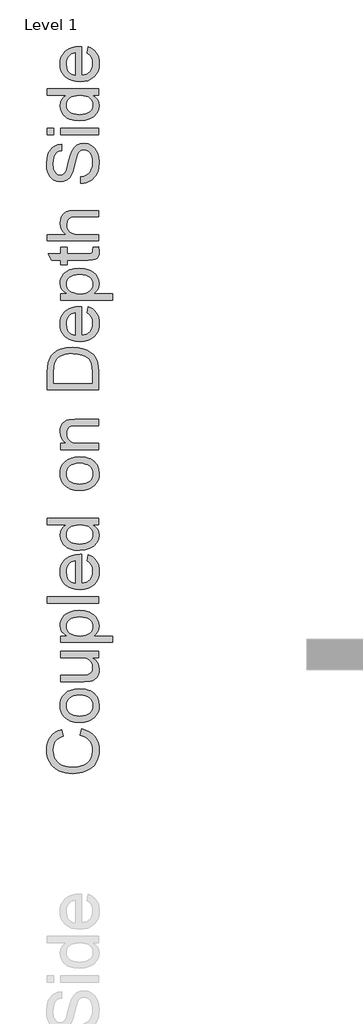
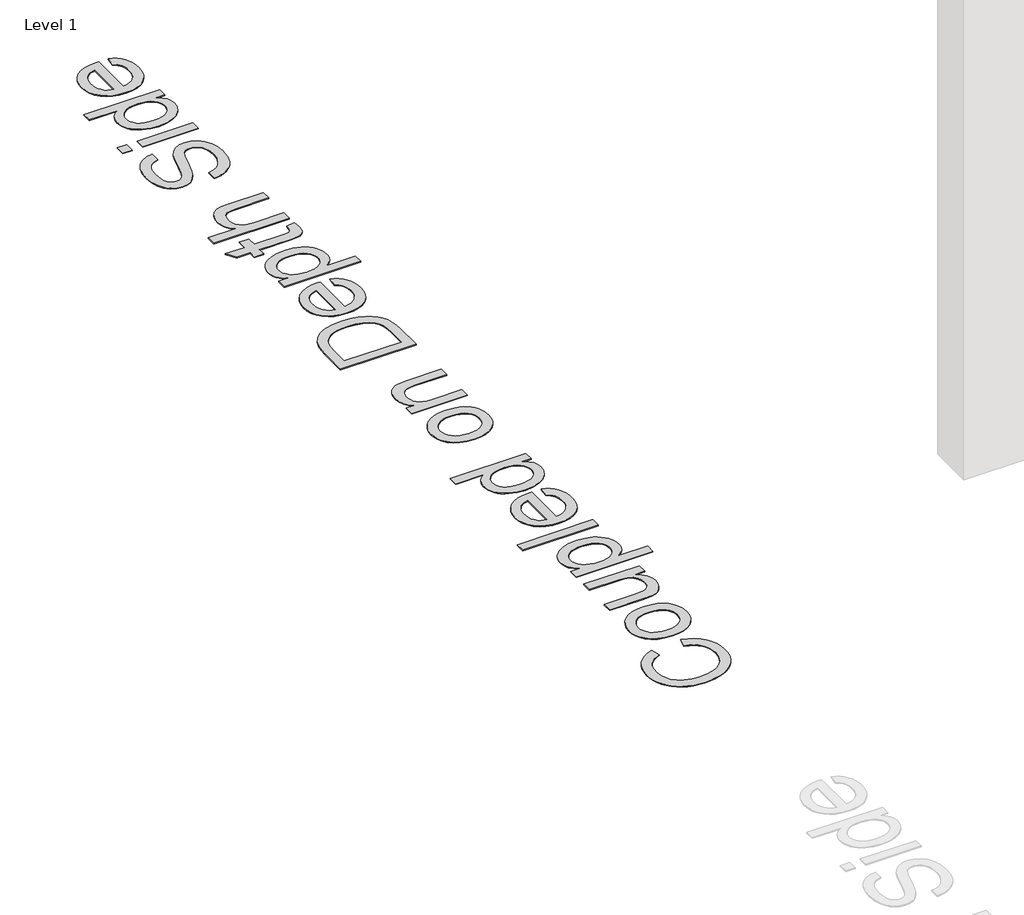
# One storey, part 49 of 80: 1 proxy.
"""IFC4 building model written with IfcOpenShell, lengths in millimetres."""

from ifc_helpers import new_model, si_unit, origin, origin_with_axes, place, context, project, spatial, polyline, outline, extrude, element, save

model = new_model("IFC4")

# Units and contexts
model_context = context("Model", 3, world=origin())
ifc_project = project(units=[si_unit("LENGTHUNIT", "METRE", prefix="MILLI")], contexts=[model_context])

# Site, building, storey
site = spatial("IfcSite", under=ifc_project)
building = spatial("IfcBuilding", under=site)
storey = spatial("IfcBuildingStorey", under=building, Name="Level 1", Elevation=0.0)

# Proxy
placement = place(None, origin())
element("IfcBuildingElementProxy", 1, Name="500mm Arial", ObjectType="500mm Arial", at=placement, inside=storey, context=model_context, shape_type="SweptSolid", body=[
    extrude(outline(polyline([(125834.4472638, 52366.9601072), (125850.6340716, 52429.7453011), (125889.6793805, 52417.3216195), (125923.7966034, 52400.7745939), (125952.9857405, 52380.1042243), (125977.2467916, 52355.3105107), (125996.3191738, 52326.9529402), (126009.942304, 52295.5910002), (126018.116182, 52261.2246904), (126020.8408081, 52223.8540111), (126018.779136, 52185.5674589), (126012.59412, 52151.0287045), (126002.2857599, 52120.2377479), (125987.8540558, 52093.1945891), (125969.5136055, 52069.5275141), (125947.4790069, 52048.8648087), (125921.7502598, 52031.206473), (125892.3273644, 52016.5525068), (125860.4825792, 52005.0446982), (125827.4881628, 51996.8248348), (125793.3441151, 51991.8929168), (125758.0504362, 51990.2489442), (125720.1815833, 51992.1075147), (125684.8112623, 51997.6832261), (125651.9394732, 52006.9760786), (125621.566216, 52019.9860721), (125594.1934963, 52036.4219667), (125570.3233197, 52055.9925224), (125549.9556863, 52078.6977393), (125533.0905961, 52104.5376173), (125519.8660048, 52132.6346047), (125510.4198682, 52162.1111496), (125504.7521862, 52192.9672519), (125502.8629589, 52225.2029117), (125505.3078413, 52261.1135594), (125512.6424886, 52294.0428301), (125524.8669007, 52323.9907238), (125541.9810777, 52350.9572404), (125563.5328312, 52374.497856), (125589.0699731, 52394.1680465), (125618.5925032, 52409.9678117), (125652.1004216, 52421.8971518), (125667.060956, 52359.111958), (125642.3707092, 52349.2251294), (125621.2749761, 52337.3456066), (125603.7737566, 52323.4733897), (125589.8670507, 52307.6084787), (125579.2712828, 52289.658903), (125571.7028772, 52269.5326922), (125567.1618338, 52247.2298462), (125565.6481527, 52222.7503651), (125567.3266143, 52194.5843999), (125572.3619991, 52168.824996), (125580.7543071, 52145.4721535), (125592.5035383, 52124.5258724), (125607.0808624, 52106.2505679), (125623.9574489, 52090.9106551), (125643.1332979, 52078.5061341), (125664.6084094, 52069.0370048), (125710.563002, 52057.0348547), (125757.9278088, 52053.034138), (125815.9305368, 52057.7706187), (125866.0851154, 52071.9800608), (125887.7403358, 52082.771266), (125906.4754928, 52096.1989588), (125922.2905865, 52112.2631392), (125935.1856169, 52130.9638073), (125952.3381149, 52172.6417717), (125958.0556142, 52217.6000172), (125956.1089053, 52244.8960948), (125950.2687787, 52270.0078731), (125940.5352342, 52292.935352), (125926.908272, 52313.6785316), (125909.4492056, 52331.7469025), (125888.2193488, 52346.6499554), (125863.2187015, 52358.3876903), (125834.4472638, 52366.9601072)])), origin_with_axes(), (0.0, 0.0, 1.0), 5.0),
    extrude(outline(polyline([(125828.5611519, 52492.5304949), (125780.790142, 52495.9257392), (125739.6256796, 52506.1114719), (125705.0677647, 52523.0876931), (125677.1163972, 52546.8544029), (125659.2511278, 52570.782061), (125646.4902211, 52597.1929225), (125638.8336771, 52626.0869876), (125636.2814958, 52657.4642561), (125639.3893322, 52692.1026452), (125648.7128415, 52723.4224321), (125664.2520237, 52751.4236169), (125686.0068788, 52776.1061995), (125713.2416427, 52796.2515709), (125745.2205516, 52810.6411218), (125781.9436053, 52819.2748524), (125823.410804, 52822.1527626), (125886.8397913, 52817.0637283), (125912.8751067, 52810.7024355), (125935.1243032, 52801.7966255), (125954.3423053, 52790.4574294), (125971.2840376, 52776.7959783), (125985.9495001, 52760.812272), (125998.3386927, 52742.5063106), (126015.2152792, 52701.7787081), (126020.8408081, 52657.4642561), (126017.7444679, 52622.3200292), (126008.4554476, 52590.7090024), (125992.9737469, 52562.6311755), (125971.299366, 52538.0865486), (125943.8001869, 52518.1557751), (125910.8440915, 52503.9195083), (125872.4310798, 52495.3777483), (125828.5611519, 52492.5304949)]), holes=[polyline([(125828.4385246, 52555.3156888), (125858.892256, 52557.1321061), (125885.2609644, 52562.5813582), (125907.5446499, 52571.6634449), (125925.7433123, 52584.3783664), (125939.8799444, 52599.8447386), (125949.9775387, 52617.1811776), (125956.0360954, 52636.3876834), (125958.0556142, 52657.4642561), (125956.024599, 52678.4335298), (125949.9315535, 52697.5633936), (125939.7764776, 52714.8538473), (125925.5593713, 52730.3048911), (125907.1806, 52743.0198126), (125884.5405289, 52752.1018993), (125857.639158, 52757.5511514), (125826.4764873, 52759.3675687), (125796.9884461, 52757.5396551), (125771.3095164, 52752.0559141), (125749.4396982, 52742.9163458), (125731.3789915, 52730.1209501), (125717.2423594, 52714.6124248), (125707.1447651, 52697.3334673), (125701.0862085, 52678.2840777), (125699.0666896, 52657.4642561), (125701.0785443, 52636.3876834), (125707.1141083, 52617.1811776), (125717.1733816, 52599.8447386), (125731.2563642, 52584.3783664), (125749.4013772, 52571.6634449), (125771.6467416, 52562.5813582), (125797.9924574, 52557.1321061), (125828.4385246, 52555.3156888)])]), origin_with_axes(), (0.0, 0.0, 1.0), 5.0),
    extrude(outline(polyline([(126012.9926588, 53128.2305826), (125949.5943283, 53128.2305826), (125980.7646632, 53105.5138694), (126003.0291881, 53079.0570226), (126016.3879031, 53048.8600421), (126020.8408081, 53014.9229281), (126017.7138111, 52984.3427372), (126008.3328202, 52955.8778678), (125994.2306771, 52931.996195), (125976.9402233, 52915.1655937), (125955.9402927, 52903.8378939), (125930.7097192, 52896.4649256), (125872.3391093, 52892.7861057), (125644.129645, 52892.7861057), (125644.129645, 52955.5712995), (125842.7859224, 52955.5712995), (125906.7973896, 52959.3727468), (125928.1498737, 52968.5238114), (125944.3826667, 52984.2047815), (125954.6373773, 53005.3733246), (125958.0556142, 53030.9871085), (125954.5607353, 53058.0724204), (125944.0760984, 53083.4102928), (125927.5673939, 53104.3029245), (125906.0003119, 53118.052514), (125876.4624534, 53125.6860654), (125836.0414192, 53128.2305826), (125644.129645, 53128.2305826), (125644.129645, 53191.0157764), (126012.9926588, 53191.0157764), (126012.9926588, 53128.2305826)])), origin_with_axes(), (0.0, 0.0, 1.0), 5.0),
    extrude(outline(polyline([(126154.259345, 53277.345418), (125644.129645, 53277.345418), (125644.129645, 53340.1306118), (125705.6885655, 53340.1306118), (125675.3229725, 53360.6093762), (125653.6332632, 53383.5406872), (125640.6194376, 53410.2734455), (125636.2814958, 53442.1565518), (125637.799009, 53464.0531947), (125642.3515487, 53484.6162654), (125649.9391148, 53503.8457639), (125660.5617075, 53521.7416901), (125673.943415, 53537.9131695), (125689.8083261, 53551.9693274), (125728.9877586, 53573.7356787), (125775.2489195, 53586.8874601), (125825.7407233, 53591.2713872), (125879.4361662, 53586.3203087), (125927.460095, 53571.4670731), (125948.735937, 53560.4459417), (125967.3752914, 53547.1868614), (125983.3781582, 53531.6898324), (125996.7445374, 53513.9548545), (126014.8167404, 53475.2506029), (126020.8408081, 53434.5536572), (126016.8094345, 53405.690249), (126004.7153139, 53379.9231809), (125986.4591699, 53357.8655896), (125963.9417261, 53340.1306118), (126154.259345, 53340.1306118), (126154.259345, 53277.345418)]), holes=[polyline([(125831.5042079, 53340.1306118), (125861.762502, 53341.8282339), (125887.7901531, 53346.9211003), (125909.5871614, 53355.4092109), (125927.1535266, 53367.2925658), (125940.6731899, 53381.5978104), (125950.3300923, 53397.3515905), (125956.1242337, 53414.5539058), (125958.0556142, 53433.2047566), (125956.0552559, 53452.1238546), (125950.0541808, 53469.6404025), (125940.0523891, 53485.7544003), (125926.0498806, 53500.465848), (125907.8473861, 53512.7247491), (125885.245636, 53521.481107), (125858.2446304, 53526.7349217), (125826.8443693, 53528.4861933), (125796.8466583, 53526.7770749), (125770.8649923, 53521.6497196), (125748.8993715, 53513.1041274), (125730.9497959, 53501.1402984), (125717.0009369, 53486.8005648), (125707.0374662, 53471.1272589), (125701.0593838, 53454.1203808), (125699.0666896, 53435.7799305), (125701.1858432, 53417.4969618), (125707.5433039, 53400.2946464), (125718.1390718, 53384.1729844), (125732.9731468, 53369.1319758), (125751.8462596, 53356.443879), (125774.5591407, 53347.3809528), (125801.1117901, 53341.943197), (125831.5042079, 53340.1306118)])]), origin_with_axes(), (0.0, 0.0, 1.0), 5.0),
    extrude(outline(polyline([(126012.9926588, 53661.9047302), (125510.7111081, 53661.9047302), (125510.7111081, 53724.6899241), (126012.9926588, 53724.6899241), (126012.9926588, 53661.9047302)])), origin_with_axes(), (0.0, 0.0, 1.0), 5.0),
    extrude(outline(polyline([(125903.1185696, 54077.1208755), (125910.9667188, 54138.679796), (125935.6224767, 54129.2413236), (125957.3505071, 54116.4995774), (125976.1508099, 54100.4545574), (125992.0233851, 54081.1062638), (126004.6310077, 54058.6539657), (126013.6364523, 54033.2969328), (126019.0397191, 54005.0351649), (126020.8408081, 53973.8686622), (126017.7329716, 53934.9114917), (126008.4094623, 53900.2002926), (125992.8702801, 53869.7350649), (125971.115425, 53843.5158085), (125943.7503696, 53822.4315717), (125911.3805861, 53807.3714025), (125874.0060746, 53798.335301), (125831.6268352, 53795.3232672), (125787.8105567, 53798.3659578), (125749.1906115, 53807.4940298), (125715.7669994, 53822.7074832), (125687.5397204, 53844.0063179), (125665.1142471, 53870.1565964), (125649.0960519, 53899.9243811), (125639.4851348, 53933.3096722), (125636.2814958, 53970.3124695), (125639.4774706, 54006.1234825), (125649.0653951, 54038.5085944), (125665.0452693, 54067.4678052), (125687.4170931, 54093.0011149), (125715.5830584, 54113.8439292), (125748.9453568, 54128.7316537), (125787.5039884, 54137.6642884), (125831.2589532, 54140.6418333), (125848.181525, 54140.2739513), (125848.181525, 53858.108461), (125873.2358217, 53861.7451278), (125895.1784499, 53868.9763083), (125914.0094095, 53879.8020024), (125929.7287006, 53894.2222102), (125942.1217253, 53911.439854), (125950.9738858, 53930.6578561), (125956.2851821, 53951.8762166), (125958.0556142, 53975.0949355), (125954.7753331, 54008.5108834), (125944.9344897, 54036.653856), (125927.9199474, 54059.5238534), (125903.1185696, 54077.1208755)]), holes=[polyline([(125785.3963312, 53858.108461), (125785.3963312, 54077.8566395), (125752.2256379, 54069.3646967), (125728.4972492, 54052.7180365), (125715.6213794, 54035.5961953), (125706.4243295, 54016.1137779), (125700.9060996, 53994.2707845), (125699.0666896, 53970.0672149), (125704.9374731, 53927.745457), (125712.2759525, 53909.3321967), (125722.5498236, 53892.7506822), (125735.2839056, 53878.8363122), (125750.0030175, 53868.4244853), (125766.7071594, 53861.5152016), (125785.3963312, 53858.108461)])]), origin_with_axes(), (0.0, 0.0, 1.0), 5.0),
    extrude(outline(polyline([(126012.9926588, 54431.0233548), (125953.7636576, 54431.0233548), (125983.1099109, 54412.2383805), (126004.0715205, 54389.4833462), (126016.6484862, 54362.7582521), (126020.8408081, 54332.0630981), (126014.7707551, 54291.4734513), (125996.5605964, 54254.3173698), (125967.4825903, 54222.8634592), (125928.8089956, 54199.3803252), (125882.1033106, 54184.7570159), (125828.9290339, 54179.8825795), (125776.4138791, 54184.3738055), (125728.9877586, 54197.8474836), (125707.8575365, 54207.94891), (125689.3484736, 54220.2882853), (125673.4605699, 54234.8656093), (125660.1938255, 54251.6808822), (125642.2595782, 54289.6493698), (125636.2814958, 54331.8178435), (125640.558124, 54362.5359901), (125653.3880085, 54389.697944), (125673.0543669, 54412.7212256), (125697.8404163, 54431.0233548), (125510.7111081, 54431.0233548), (125510.7111081, 54493.8085487), (126012.9926588, 54493.8085487), (126012.9926588, 54431.0233548)]), holes=[polyline([(125828.6837793, 54242.6677733), (125859.1298465, 54244.4382054), (125885.4755623, 54249.7495017), (125907.7209267, 54258.6016622), (125925.8659396, 54270.9946869), (125939.9489223, 54285.794273), (125950.0081956, 54301.8661177), (125956.0437596, 54319.2102209), (125958.0556142, 54337.8265827), (125956.1357301, 54356.5310829), (125950.3760776, 54373.7717193), (125940.7766568, 54389.548492), (125927.3374676, 54403.8614009), (125909.9512112, 54415.7447557), (125888.5105887, 54424.2328663), (125863.0156, 54429.3257327), (125833.4662452, 54431.0233548), (125801.069637, 54429.2950759), (125773.2868821, 54424.110239), (125750.1179807, 54415.4688442), (125731.5629325, 54403.3708915), (125717.3458263, 54388.7437501), (125707.1907503, 54372.5147892), (125701.0977048, 54354.6840087), (125699.0666896, 54335.2514088), (125701.0172306, 54316.267165), (125706.8688536, 54298.9230617), (125716.6215586, 54283.2190991), (125730.2753455, 54269.155277), (125748.1291186, 54257.5669941), (125770.4817819, 54249.2896492), (125797.3333355, 54244.3232423), (125828.6837793, 54242.6677733)])]), origin_with_axes(), (0.0, 0.0, 1.0), 5.0),
    extrude(outline(polyline([(125828.5611519, 54768.4937717), (125780.790142, 54771.889016), (125739.6256796, 54782.0747487), (125705.0677647, 54799.05097), (125677.1163972, 54822.8176797), (125659.2511278, 54846.7453378), (125646.4902211, 54873.1561994), (125638.8336771, 54902.0502644), (125636.2814958, 54933.4275329), (125639.3893322, 54968.065922), (125648.7128415, 54999.385709), (125664.2520237, 55027.3868937), (125686.0068788, 55052.0694764), (125713.2416427, 55072.2148477), (125745.2205516, 55086.6043987), (125781.9436053, 55095.2381292), (125823.410804, 55098.1160394), (125886.8397913, 55093.0270052), (125912.8751067, 55086.6657123), (125935.1243032, 55077.7599024), (125954.3423053, 55066.4207063), (125971.2840376, 55052.7592551), (125985.9495001, 55036.7755488), (125998.3386927, 55018.4695875), (126015.2152792, 54977.7419849), (126020.8408081, 54933.4275329), (126017.7444679, 54898.2833061), (126008.4554476, 54866.6722792), (125992.9737469, 54838.5944523), (125971.299366, 54814.0498255), (125943.8001869, 54794.119052), (125910.8440915, 54779.8827852), (125872.4310798, 54771.3410251), (125828.5611519, 54768.4937717)]), holes=[polyline([(125828.4385246, 54831.2789656), (125858.892256, 54833.0953829), (125885.2609644, 54838.544635), (125907.5446499, 54847.6267217), (125925.7433123, 54860.3416432), (125939.8799444, 54875.8080154), (125949.9775387, 54893.1444544), (125956.0360954, 54912.3509603), (125958.0556142, 54933.4275329), (125956.024599, 54954.3968066), (125949.9315535, 54973.5266704), (125939.7764776, 54990.8171242), (125925.5593713, 55006.268168), (125907.1806, 55018.9830894), (125884.5405289, 55028.0651762), (125857.639158, 55033.5144282), (125826.4764873, 55035.3308456), (125796.9884461, 55033.5029319), (125771.3095164, 55028.0191909), (125749.4396982, 55018.8796226), (125731.3789915, 55006.084227), (125717.2423594, 54990.5757016), (125707.1447651, 54973.2967441), (125701.0862085, 54954.2473546), (125699.0666896, 54933.4275329), (125701.0785443, 54912.3509603), (125707.1141083, 54893.1444544), (125717.1733816, 54875.8080154), (125731.2563642, 54860.3416432), (125749.4013772, 54847.6267217), (125771.6467416, 54838.544635), (125797.9924574, 54833.0953829), (125828.4385246, 54831.2789656)])]), origin_with_axes(), (0.0, 0.0, 1.0), 5.0),
    extrude(outline(polyline([(126012.9926588, 55168.7493825), (125644.129645, 55168.7493825), (125644.129645, 55231.5345763), (125695.6331243, 55231.5345763), (125669.6667868, 55253.346913), (125651.1194029, 55279.5431767), (125639.9909726, 55310.1233676), (125636.2814958, 55345.0874855), (125639.270537, 55376.0355584), (125648.2376606, 55404.3778004), (125662.0638923, 55428.0142186), (125679.6302575, 55444.8448199), (125700.8907712, 55456.2644901), (125725.7994479, 55463.6681153), (125786.4999771, 55466.9790532), (126012.9926588, 55466.9790532), (126012.9926588, 55404.1938594), (125794.961263, 55404.1938594), (125762.495677, 55402.3851063), (125739.4110818, 55396.9588468), (125722.8717204, 55386.9493909), (125710.0418358, 55371.3910482), (125701.8104762, 55351.4487783), (125699.0666896, 55328.2875411), (125700.6071955, 55309.2228231), (125705.228713, 55291.51467), (125712.9312423, 55275.1630817), (125723.7147833, 55260.1680583), (125738.8056093, 55247.6409099), (125759.4299937, 55238.6929468), (125785.5879364, 55233.324169), (125817.2794374, 55231.5345763), (126012.9926588, 55231.5345763), (126012.9926588, 55168.7493825)])), origin_with_axes(), (0.0, 0.0, 1.0), 5.0),
    extrude(outline(polyline([(126012.9926588, 55757.3605748), (125510.7111081, 55757.3605748), (125510.7111081, 55930.6329945), (125512.5198612, 55982.4123853), (125517.9461207, 56020.273574), (125531.8949796, 56060.3113978), (125553.8759289, 56094.0952277), (125571.840833, 56112.7115895), (125592.1356564, 56128.8294194), (125614.7603991, 56142.4487174), (125639.7150611, 56153.5694836), (125695.694438, 56168.3767339), (125759.1540822, 56173.312484), (125813.0641229, 56169.9708892), (125860.5055718, 56159.9461048), (125900.8959492, 56144.679002), (125933.6527752, 56125.6104519), (125959.5118138, 56103.6601596), (125979.2088289, 56079.7478299), (125993.8168098, 56052.294636), (126004.4087456, 56019.721751), (126010.8466805, 55981.9678612), (126012.9926588, 55938.9716531), (126012.9926588, 55757.3605748)]), holes=[polyline([(125950.207465, 55820.1457686), (125950.207465, 55931.2461312), (125947.9388594, 55977.2007237), (125941.1330424, 56012.0575428), (125930.1885531, 56038.3611054), (125915.5039301, 56058.6559288), (125888.3266477, 56080.4682655), (125853.1479319, 56096.8543427), (125809.8144986, 56107.1090533), (125758.1730635, 56110.5272901), (125721.7220892, 56108.8526606), (125689.7470124, 56103.8287721), (125662.2478333, 56095.4556247), (125639.2245517, 56083.7332182), (125620.1560017, 56069.6119145), (125604.5210169, 56054.0420755), (125592.3195973, 56037.0237011), (125583.5517431, 56018.5567913), (125576.0101622, 55982.4430422), (125573.4963019, 55929.5293485), (125573.4963019, 55820.1457686), (125950.207465, 55820.1457686)])]), origin_with_axes(), (0.0, 0.0, 1.0), 5.0),
    extrude(outline(polyline([(125903.1185696, 56510.0471369), (125910.9667188, 56571.6060574), (125935.6224767, 56562.167585), (125957.3505071, 56549.4258388), (125976.1508099, 56533.3808189), (125992.0233851, 56514.0325252), (126004.6310077, 56491.5802272), (126013.6364523, 56466.2231942), (126019.0397191, 56437.9614264), (126020.8408081, 56406.7949236), (126017.7329716, 56367.8377531), (126008.4094623, 56333.1265541), (125992.8702801, 56302.6613263), (125971.115425, 56276.44207), (125943.7503696, 56255.3578331), (125911.3805861, 56240.2976639), (125874.0060746, 56231.2615624), (125831.6268352, 56228.2495286), (125787.8105567, 56231.2922193), (125749.1906115, 56240.4202913), (125715.7669994, 56255.6337446), (125687.5397204, 56276.9325793), (125665.1142471, 56303.0828578), (125649.0960519, 56332.8506426), (125639.4851348, 56366.2359336), (125636.2814958, 56403.238731), (125639.4774706, 56439.0497439), (125649.0653951, 56471.4348558), (125665.0452693, 56500.3940666), (125687.4170931, 56525.9273764), (125715.5830584, 56546.7701907), (125748.9453568, 56561.6579151), (125787.5039884, 56570.5905498), (125831.2589532, 56573.5680947), (125848.181525, 56573.2002127), (125848.181525, 56291.0347224), (125873.2358217, 56294.6713893), (125895.1784499, 56301.9025697), (125914.0094095, 56312.7282638), (125929.7287006, 56327.1484716), (125942.1217253, 56344.3661154), (125950.9738858, 56363.5841176), (125956.2851821, 56384.8024781), (125958.0556142, 56408.0211969), (125954.7753331, 56441.4371448), (125944.9344897, 56469.5801174), (125927.9199474, 56492.4501148), (125903.1185696, 56510.0471369)]), holes=[polyline([(125785.3963312, 56291.0347224), (125785.3963312, 56510.7829009), (125752.2256379, 56502.2909582), (125728.4972492, 56485.6442979), (125715.6213794, 56468.5224567), (125706.4243295, 56449.0400394), (125700.9060996, 56427.1970459), (125699.0666896, 56402.9934763), (125704.9374731, 56360.6717184), (125712.2759525, 56342.2584582), (125722.5498236, 56325.6769437), (125735.2839056, 56311.7625736), (125750.0030175, 56301.3507467), (125766.7071594, 56294.441463), (125785.3963312, 56291.0347224)])]), origin_with_axes(), (0.0, 0.0, 1.0), 5.0),
    extrude(outline(polyline([(126154.259345, 56636.3532886), (125644.129645, 56636.3532886), (125644.129645, 56699.1384824), (125705.6885655, 56699.1384824), (125675.3229725, 56719.6172468), (125653.6332632, 56742.5485579), (125640.6194376, 56769.2813162), (125636.2814958, 56801.1644224), (125637.799009, 56823.0610653), (125642.3515487, 56843.624136), (125649.9391148, 56862.8536345), (125660.5617075, 56880.7495607), (125673.943415, 56896.9210401), (125689.8083261, 56910.977198), (125728.9877586, 56932.7435494), (125775.2489195, 56945.8953307), (125825.7407233, 56950.2792578), (125879.4361662, 56945.3281793), (125927.460095, 56930.4749437), (125948.735937, 56919.4538123), (125967.3752914, 56906.194732), (125983.3781582, 56890.697703), (125996.7445374, 56872.9627251), (126014.8167404, 56834.2584736), (126020.8408081, 56793.5615279), (126016.8094345, 56764.6981197), (126004.7153139, 56738.9310516), (125986.4591699, 56716.8734603), (125963.9417261, 56699.1384824), (126154.259345, 56699.1384824), (126154.259345, 56636.3532886)]), holes=[polyline([(125831.5042079, 56699.1384824), (125861.762502, 56700.8361046), (125887.7901531, 56705.9289709), (125909.5871614, 56714.4170815), (125927.1535266, 56726.3004364), (125940.6731899, 56740.6056811), (125950.3300923, 56756.3594611), (125956.1242337, 56773.5617765), (125958.0556142, 56792.2126272), (125956.0552559, 56811.1317252), (125950.0541808, 56828.6482731), (125940.0523891, 56844.762271), (125926.0498806, 56859.4737187), (125907.8473861, 56871.7326197), (125885.245636, 56880.4889776), (125858.2446304, 56885.7427924), (125826.8443693, 56887.494064), (125796.8466583, 56885.7849455), (125770.8649923, 56880.6575902), (125748.8993715, 56872.111998), (125730.9497959, 56860.148169), (125717.0009369, 56845.8084354), (125707.0374662, 56830.1351295), (125701.0593838, 56813.1282515), (125699.0666896, 56794.7878012), (125701.1858432, 56776.5048324), (125707.5433039, 56759.3025171), (125718.1390718, 56743.180855), (125732.9731468, 56728.1398464), (125751.8462596, 56715.4517497), (125774.5591407, 56706.3888234), (125801.1117901, 56700.9510677), (125831.5042079, 56699.1384824)])]), origin_with_axes(), (0.0, 0.0, 1.0), 5.0),
    extrude(outline(polyline([(125960.6307882, 57154.3311378), (126014.8320688, 57162.179287), (126020.8408081, 57115.213019), (126018.2349773, 57085.0773522), (126010.4174849, 57062.6058937), (125998.3693495, 57046.7256542), (125983.0715899, 57036.3636447), (125956.7986841, 57030.6614737), (125911.8251102, 57028.7607501), (125706.9148388, 57028.7607501), (125706.9148388, 56981.6718547), (125644.129645, 56981.6718547), (125644.129645, 57028.7607501), (125554.4890655, 57028.7607501), (125517.5782387, 57091.5459439), (125644.129645, 57091.5459439), (125644.129645, 57154.3311378), (125706.9148388, 57154.3311378), (125706.9148388, 57091.5459439), (125909.9857002, 57091.5459439), (125942.3593158, 57094.8568819), (125953.8249713, 57105.5867734), (125958.0556142, 57126.9852428), (125960.6307882, 57154.3311378)])), origin_with_axes(), (0.0, 0.0, 1.0), 5.0),
    extrude(outline(polyline([(126012.9926588, 57217.1163316), (125510.7111081, 57217.1163316), (125510.7111081, 57279.9015255), (125695.3878697, 57279.9015255), (125669.5288311, 57302.9631281), (125651.0580892, 57328.8604877), (125639.9756441, 57357.5936043), (125636.2814958, 57389.162478), (125640.3128693, 57427.0849804), (125652.4069899, 57459.6731938), (125671.6134957, 57485.332963), (125696.982025, 57502.4701326), (125731.838844, 57512.1270349), (125779.5102192, 57515.3460024), (126012.9926588, 57515.3460024), (126012.9926588, 57452.5608085), (125786.0094678, 57452.5608085), (125746.707408, 57447.5637448), (125731.7008883, 57441.3174151), (125719.7907087, 57432.5725535), (125710.7239503, 57421.5360936), (125704.2476944, 57408.4149691), (125699.0666896, 57375.9187262), (125702.5615686, 57349.3852373), (125713.0462054, 57324.4765606), (125729.5089247, 57303.844512), (125750.9380509, 57290.1409077), (125779.4182487, 57282.461371), (125817.0341827, 57279.9015255), (126012.9926588, 57279.9015255), (126012.9926588, 57217.1163316)])), origin_with_axes(), (0.0, 0.0, 1.0), 5.0),
    extrude(outline(polyline([(125840.3333758, 57782.1830762), (125840.3333758, 57844.9682701), (125875.1748664, 57852.1726258), (125903.1798833, 57865.2017798), (125925.4060871, 57885.52726), (125942.9111388, 57914.6205945), (125954.2694954, 57950.1825207), (125958.0556142, 57989.9137762), (125955.1892003, 58024.8932225), (125946.5899587, 58055.5193986), (125932.9783249, 58080.3361049), (125915.0747345, 58097.8871418), (125894.519328, 58108.3257934), (125872.952246, 58111.8053439), (125851.936987, 58109.1995131), (125833.7728135, 58101.3820207), (125818.2757845, 58085.5017813), (125805.2619589, 58058.7077093), (125781.2883155, 57967.2890335), (125765.4234045, 57907.278283), (125750.3249143, 57868.8805998), (125729.2023564, 57837.6259586), (125703.6039009, 57815.4763968), (125674.0813708, 57802.2786302), (125641.186589, 57797.8793747), (125604.4137179, 57803.3209625), (125570.1240503, 57819.6457261), (125554.5963644, 57831.7819998), (125541.0613727, 57846.4244696), (125519.9694716, 57883.2279976), (125507.139587, 57927.4044938), (125502.8629589, 57976.3021423), (125507.3388565, 58029.2771497), (125520.7665493, 58075.630281), (125542.8701258, 58113.7060675), (125557.0719037, 58129.0191556), (125573.3736746, 58141.8490402), (125610.3764719, 58159.6606601), (125651.9777942, 58166.7423885), (125651.9777942, 58103.9571947), (125631.9435539, 58099.7572086), (125614.5151444, 58092.4302255), (125599.6925657, 58081.9762455), (125587.4758177, 58068.3952685), (125577.9262143, 58051.4343757), (125571.105069, 58030.8406481), (125565.6481527, 57978.754689), (125571.0437553, 57925.4424565), (125577.7882585, 57905.0633268), (125587.2305631, 57888.8688548), (125598.5812555, 57876.5294796), (125611.0509223, 57867.7156401), (125624.6395635, 57862.4273364), (125639.3471791, 57860.6645685), (125663.4741066, 57865.6616323), (125682.8798818, 57880.6528236), (125691.5097803, 57894.4177416), (125700.2316493, 57916.0921225), (125717.9512987, 57983.1692729), (125734.7819, 58052.3924017), (125749.466523, 58094.2696355), (125772.2445498, 58130.0614879), (125800.3568656, 58155.0314783), (125833.496902, 58169.7007729), (125871.3580907, 58174.5905377), (125910.0623423, 58168.9650089), (125946.4673314, 58152.0884224), (125977.7986146, 58124.6505569), (126001.2817487, 58087.3411912), (126015.9510432, 58042.4749162), (126020.8408081, 57992.3663228), (126015.5678328, 57930.8533875), (126008.9766137, 57904.1781108), (125999.748907, 57880.2236279), (125987.8693842, 57858.8443191), (125973.322717, 57839.8945642), (125956.1089053, 57823.3743634), (125936.2279492, 57809.2837165), (125914.323642, 57797.9330241), (125891.0397774, 57789.6326866), (125866.3763553, 57784.382704), (125840.3333758, 57782.1830762)])), origin_with_axes(), (0.0, 0.0, 1.0), 5.0),
    extrude(outline(polyline([(125573.4963019, 58260.9201793), (125510.7111081, 58260.9201793), (125510.7111081, 58323.7053731), (125573.4963019, 58323.7053731), (125573.4963019, 58260.9201793)])), origin_with_axes(), (0.0, 0.0, 1.0), 5.0),
    extrude(outline(polyline([(126012.9926588, 58260.9201793), (125644.129645, 58260.9201793), (125644.129645, 58323.7053731), (126012.9926588, 58323.7053731), (126012.9926588, 58260.9201793)])), origin_with_axes(), (0.0, 0.0, 1.0), 5.0),
    extrude(outline(polyline([(126012.9926588, 58645.4794916), (125953.7636576, 58645.4794916), (125983.1099109, 58626.6945172), (126004.0715205, 58603.939483), (126016.6484862, 58577.2143888), (126020.8408081, 58546.5192349), (126014.7707551, 58505.9295881), (125996.5605964, 58468.7735066), (125967.4825903, 58437.319596), (125928.8089956, 58413.8364619), (125882.1033106, 58399.2131526), (125828.9290339, 58394.3387162), (125776.4138791, 58398.8299422), (125728.9877586, 58412.3036203), (125707.8575365, 58422.4050467), (125689.3484736, 58434.744422), (125673.4605699, 58449.3217461), (125660.1938255, 58466.1370189), (125642.2595782, 58504.1055065), (125636.2814958, 58546.2739802), (125640.558124, 58576.9921268), (125653.3880085, 58604.1540808), (125673.0543669, 58627.1773623), (125697.8404163, 58645.4794916), (125510.7111081, 58645.4794916), (125510.7111081, 58708.2646854), (126012.9926588, 58708.2646854), (126012.9926588, 58645.4794916)]), holes=[polyline([(125828.6837793, 58457.12391), (125859.1298465, 58458.8943421), (125885.4755623, 58464.2056385), (125907.7209267, 58473.057799), (125925.8659396, 58485.4508237), (125939.9489223, 58500.2504098), (125950.0081956, 58516.3222544), (125956.0437596, 58533.6663577), (125958.0556142, 58552.2827195), (125956.1357301, 58570.9872197), (125950.3760776, 58588.2278561), (125940.7766568, 58604.0046287), (125927.3374676, 58618.3175376), (125909.9512112, 58630.2008925), (125888.5105887, 58638.6890031), (125863.0156, 58643.7818695), (125833.4662452, 58645.4794916), (125801.069637, 58643.7512126), (125773.2868821, 58638.5663757), (125750.1179807, 58629.924981), (125731.5629325, 58617.8270283), (125717.3458263, 58603.1998869), (125707.1907503, 58586.9709259), (125701.0977048, 58569.1401455), (125699.0666896, 58549.7075455), (125701.0172306, 58530.7233017), (125706.8688536, 58513.3791985), (125716.6215586, 58497.6752358), (125730.2753455, 58483.6114137), (125748.1291186, 58472.0231308), (125770.4817819, 58463.745786), (125797.3333355, 58458.779379), (125828.6837793, 58457.12391)])]), origin_with_axes(), (0.0, 0.0, 1.0), 5.0),
    extrude(outline(polyline([(125903.1185696, 59060.6956368), (125910.9667188, 59122.2545573), (125935.6224767, 59112.8160849), (125957.3505071, 59100.0743387), (125976.1508099, 59084.0293188), (125992.0233851, 59064.6810251), (126004.6310077, 59042.2287271), (126013.6364523, 59016.8716941), (126019.0397191, 58988.6099263), (126020.8408081, 58957.4434235), (126017.7329716, 58918.486253), (126008.4094623, 58883.775054), (125992.8702801, 58853.3098262), (125971.115425, 58827.0905699), (125943.7503696, 58806.006333), (125911.3805861, 58790.9461638), (125874.0060746, 58781.9100623), (125831.6268352, 58778.8980285), (125787.8105567, 58781.9407192), (125749.1906115, 58791.0687912), (125715.7669994, 58806.2822445), (125687.5397204, 58827.5810792), (125665.1142471, 58853.7313577), (125649.0960519, 58883.4991425), (125639.4851348, 58916.8844335), (125636.2814958, 58953.8872309), (125639.4774706, 58989.6982438), (125649.0653951, 59022.0833557), (125665.0452693, 59051.0425665), (125687.4170931, 59076.5758763), (125715.5830584, 59097.4186905), (125748.9453568, 59112.306415), (125787.5039884, 59121.2390497), (125831.2589532, 59124.2165946), (125848.181525, 59123.8487126), (125848.181525, 58841.6832223), (125873.2358217, 58845.3198891), (125895.1784499, 58852.5510696), (125914.0094095, 58863.3767637), (125929.7287006, 58877.7969715), (125942.1217253, 58895.0146153), (125950.9738858, 58914.2326175), (125956.2851821, 58935.450978), (125958.0556142, 58958.6696968), (125954.7753331, 58992.0856447), (125944.9344897, 59020.2286173), (125927.9199474, 59043.0986147), (125903.1185696, 59060.6956368)]), holes=[polyline([(125785.3963312, 58841.6832223), (125785.3963312, 59061.4314008), (125752.2256379, 59052.9394581), (125728.4972492, 59036.2927978), (125715.6213794, 59019.1709566), (125706.4243295, 58999.6885393), (125700.9060996, 58977.8455458), (125699.0666896, 58953.6419762), (125704.9374731, 58911.3202183), (125712.2759525, 58892.9069581), (125722.5498236, 58876.3254435), (125735.2839056, 58862.4110735), (125750.0030175, 58851.9992466), (125766.7071594, 58845.0899629), (125785.3963312, 58841.6832223)])]), origin_with_axes(), (0.0, 0.0, 1.0), 5.0),
])

save(model, "model.ifc")
